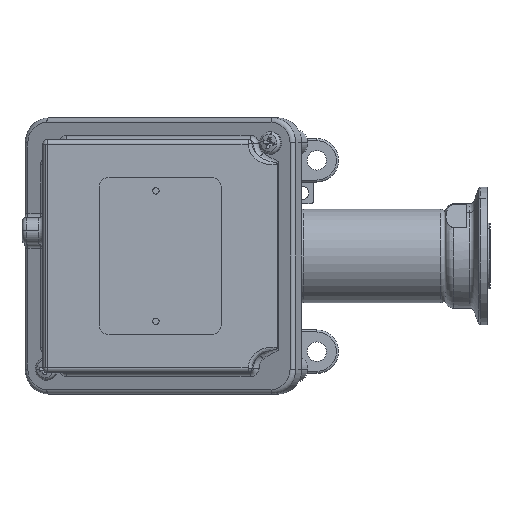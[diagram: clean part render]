
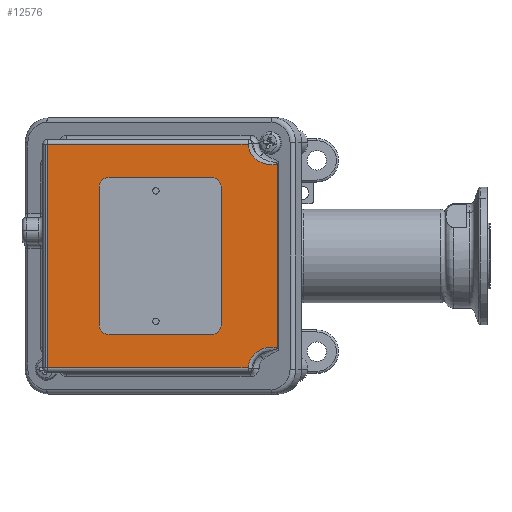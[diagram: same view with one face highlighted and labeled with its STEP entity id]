
A CAD part, left-side view. The second image highlights one B-rep face of the part: STEP entity #12576.
In plain terms, the highlighted planar face has unit normal (-1, 0.005, 0).
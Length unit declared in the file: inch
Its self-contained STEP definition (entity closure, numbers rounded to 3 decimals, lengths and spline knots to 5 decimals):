
#411 = EDGE_LOOP ( 'NONE', ( #7273, #20281, #19635, #23700, #1003, #17655 ) ) ;
#573 = EDGE_LOOP ( 'NONE', ( #2286, #17270 ) ) ;
#672 = CARTESIAN_POINT ( 'NONE',  ( -2.32276, 0.19397, -1.32146 ) ) ;
#1003 = ORIENTED_EDGE ( 'NONE', *, *, #17101, .T. ) ;
#1011 = FACE_BOUND ( 'NONE', #573, .T. ) ;
#1344 = DIRECTION ( 'NONE',  ( -1., 0.005, 0. ) ) ;
#1429 = FACE_BOUND ( 'NONE', #13270, .T. ) ;
#1531 = CARTESIAN_POINT ( 'NONE',  ( -2.31365, 1.9384, -0.938 ) ) ;
#1790 = VERTEX_POINT ( 'NONE', #16831 ) ;
#2190 = ORIENTED_EDGE ( 'NONE', *, *, #24075, .F. ) ;
#2286 = ORIENTED_EDGE ( 'NONE', *, *, #14665, .F. ) ;
#2716 = CARTESIAN_POINT ( 'NONE',  ( -2.32063, 0.60182, 1.39798 ) ) ;
#3215 = DIRECTION ( 'NONE',  ( -1., 0.005, 0. ) ) ;
#3258 = DIRECTION ( 'NONE',  ( 0., 0., 1. ) ) ;
#3361 = EDGE_CURVE ( 'NONE', #20711, #8663, #23585, .T. ) ;
#4073 = LINE ( 'NONE', #6268, #10521 ) ;
#4252 = DIRECTION ( 'NONE',  ( -0.005, -1., 0. ) ) ;
#4839 = VERTEX_POINT ( 'NONE', #22457 ) ;
#4997 = CARTESIAN_POINT ( 'NONE',  ( -2.3055, 3.50088, 1.61 ) ) ;
#5604 = LINE ( 'NONE', #9268, #13575 ) ;
#6207 = LINE ( 'NONE', #22127, #21561 ) ;
#6268 = CARTESIAN_POINT ( 'NONE',  ( -2.3055, 3.50088, 1.6725 ) ) ;
#6504 = CARTESIAN_POINT ( 'NONE',  ( -2.31365, 1.9384, -0.938 ) ) ;
#6631 = DIRECTION ( 'NONE',  ( -1., 0.005, 0. ) ) ;
#6728 = VERTEX_POINT ( 'NONE', #15281 ) ;
#7014 = PLANE ( 'NONE',  #25616 ) ;
#7069 = CARTESIAN_POINT ( 'NONE',  ( -2.31365, 1.9384, 0.937 ) ) ;
#7071 = DIRECTION ( 'NONE',  ( -0.005, -1., 0. ) ) ;
#7273 = ORIENTED_EDGE ( 'NONE', *, *, #15502, .T. ) ;
#7426 = FACE_OUTER_BOUND ( 'NONE', #411, .T. ) ;
#7452 = DIRECTION ( 'NONE',  ( 0.005, 1., 0. ) ) ;
#7898 = CARTESIAN_POINT ( 'NONE',  ( -2.32276, 0.19397, -1.32146 ) ) ;
#8039 = CARTESIAN_POINT ( 'NONE',  ( -2.31365, 1.9384, 0.937 ) ) ;
#8663 = VERTEX_POINT ( 'NONE', #7898 ) ;
#8902 = CIRCLE ( 'NONE', #23883, 0.0465 ) ;
#9219 = ORIENTED_EDGE ( 'NONE', *, *, #25563, .F. ) ;
#9268 = CARTESIAN_POINT ( 'NONE',  ( -2.32282, 0.18143, 1.61 ) ) ;
#9360 = CARTESIAN_POINT ( 'NONE',  ( -2.31341, 1.9849, -0.938 ) ) ;
#9804 = CIRCLE ( 'NONE', #13563, 0.0465 ) ;
#9959 = DIRECTION ( 'NONE',  ( 0., 0., -1. ) ) ;
#10521 = VECTOR ( 'NONE', #9959, 39.37008 ) ;
#10649 = CARTESIAN_POINT ( 'NONE',  ( -2.32057, 0.61286, 1.61 ) ) ;
#11150 = DIRECTION ( 'NONE',  ( -0.005, -1., 0. ) ) ;
#12576 = ADVANCED_FACE ( 'NONE', ( #1429, #1011, #7426 ), #7014, .F. ) ;
#12625 = CARTESIAN_POINT ( 'NONE',  ( -2.32276, 0.19397, 1.32146 ) ) ;
#12969 =( BOUNDED_CURVE ( )  B_SPLINE_CURVE ( 3, ( #12625, #18873, #2716, #10649 ),
 .UNSPECIFIED., .F., .T. ) 
 B_SPLINE_CURVE_WITH_KNOTS ( ( 4, 4 ),
 ( 1.33072, 3.09357 ),
 .UNSPECIFIED. ) 
 CURVE ( )  GEOMETRIC_REPRESENTATION_ITEM ( )  RATIONAL_B_SPLINE_CURVE ( ( 1., 0.757, 0.757, 1. ) ) 
 REPRESENTATION_ITEM ( '' )  );
#13135 = AXIS2_PLACEMENT_3D ( 'NONE', #8039, #23936, #7071 ) ;
#13270 = EDGE_LOOP ( 'NONE', ( #2190, #9219 ) ) ;
#13563 = AXIS2_PLACEMENT_3D ( 'NONE', #7069, #1344, #25167 ) ;
#13575 = VECTOR ( 'NONE', #7452, 39.37008 ) ;
#14121 = CARTESIAN_POINT ( 'NONE',  ( -2.32057, 0.61286, -1.61 ) ) ;
#14246 = VECTOR ( 'NONE', #3258, 39.37008 ) ;
#14665 = EDGE_CURVE ( 'NONE', #1790, #24875, #8902, .T. ) ;
#14984 = DIRECTION ( 'NONE',  ( 0.005, 1., 0. ) ) ;
#15185 = VERTEX_POINT ( 'NONE', #16945 ) ;
#15281 = CARTESIAN_POINT ( 'NONE',  ( -2.3055, 3.50088, -1.61 ) ) ;
#15413 = CARTESIAN_POINT ( 'NONE',  ( -2.32057, 0.61286, 1.61 ) ) ;
#15502 = EDGE_CURVE ( 'NONE', #20415, #6728, #4073, .T. ) ;
#16473 = CARTESIAN_POINT ( 'NONE',  ( -2.32057, 0.61286, -1.61 ) ) ;
#16603 = CARTESIAN_POINT ( 'NONE',  ( -2.32063, 0.60182, -1.39798 ) ) ;
#16831 = CARTESIAN_POINT ( 'NONE',  ( -2.31389, 1.8919, -0.938 ) ) ;
#16945 = CARTESIAN_POINT ( 'NONE',  ( -2.31341, 1.9849, 0.937 ) ) ;
#17101 = EDGE_CURVE ( 'NONE', #4839, #24526, #12969, .T. ) ;
#17270 = ORIENTED_EDGE ( 'NONE', *, *, #18074, .F. ) ;
#17296 = VERTEX_POINT ( 'NONE', #21877 ) ;
#17655 = ORIENTED_EDGE ( 'NONE', *, *, #25736, .T. ) ;
#18074 = EDGE_CURVE ( 'NONE', #24875, #1790, #18199, .T. ) ;
#18199 = CIRCLE ( 'NONE', #19882, 0.0465 ) ;
#18797 = CARTESIAN_POINT ( 'NONE',  ( -2.32159, 0.41746, -1.27099 ) ) ;
#18873 = CARTESIAN_POINT ( 'NONE',  ( -2.32159, 0.41746, 1.27099 ) ) ;
#18885 = DIRECTION ( 'NONE',  ( 1., -0.005, 0. ) ) ;
#19567 = CARTESIAN_POINT ( 'NONE',  ( -2.32276, 0.19397, 1.6725 ) ) ;
#19635 = ORIENTED_EDGE ( 'NONE', *, *, #3361, .T. ) ;
#19882 = AXIS2_PLACEMENT_3D ( 'NONE', #1531, #3215, #11150 ) ;
#20281 = ORIENTED_EDGE ( 'NONE', *, *, #21542, .T. ) ;
#20415 = VERTEX_POINT ( 'NONE', #4997 ) ;
#20711 = VERTEX_POINT ( 'NONE', #14121 ) ;
#20845 = CARTESIAN_POINT ( 'NONE',  ( -2.32282, 0.18143, 1.6725 ) ) ;
#21382 = LINE ( 'NONE', #19567, #14246 ) ;
#21542 = EDGE_CURVE ( 'NONE', #6728, #20711, #6207, .T. ) ;
#21561 = VECTOR ( 'NONE', #4252, 39.37008 ) ;
#21877 = CARTESIAN_POINT ( 'NONE',  ( -2.31389, 1.8919, 0.937 ) ) ;
#22127 = CARTESIAN_POINT ( 'NONE',  ( -2.32081, 0.56672, -1.61 ) ) ;
#22266 = CIRCLE ( 'NONE', #13135, 0.0465 ) ;
#22457 = CARTESIAN_POINT ( 'NONE',  ( -2.32276, 0.19397, 1.32146 ) ) ;
#22814 = EDGE_CURVE ( 'NONE', #8663, #4839, #21382, .T. ) ;
#23585 =( BOUNDED_CURVE ( )  B_SPLINE_CURVE ( 3, ( #16473, #16603, #18797, #672 ),
 .UNSPECIFIED., .F., .F. ) 
 B_SPLINE_CURVE_WITH_KNOTS ( ( 4, 4 ),
 ( 3.18961, 4.95247 ),
 .UNSPECIFIED. ) 
 CURVE ( )  GEOMETRIC_REPRESENTATION_ITEM ( )  RATIONAL_B_SPLINE_CURVE ( ( 1., 0.757, 0.757, 1. ) ) 
 REPRESENTATION_ITEM ( '' )  );
#23700 = ORIENTED_EDGE ( 'NONE', *, *, #22814, .T. ) ;
#23883 = AXIS2_PLACEMENT_3D ( 'NONE', #6504, #6631, #24600 ) ;
#23936 = DIRECTION ( 'NONE',  ( -1., 0.005, 0. ) ) ;
#24075 = EDGE_CURVE ( 'NONE', #17296, #15185, #9804, .T. ) ;
#24526 = VERTEX_POINT ( 'NONE', #15413 ) ;
#24600 = DIRECTION ( 'NONE',  ( -0.005, -1., 0. ) ) ;
#24875 = VERTEX_POINT ( 'NONE', #9360 ) ;
#25167 = DIRECTION ( 'NONE',  ( -0.005, -1., 0. ) ) ;
#25563 = EDGE_CURVE ( 'NONE', #15185, #17296, #22266, .T. ) ;
#25616 = AXIS2_PLACEMENT_3D ( 'NONE', #20845, #18885, #14984 ) ;
#25736 = EDGE_CURVE ( 'NONE', #24526, #20415, #5604, .T. ) ;
